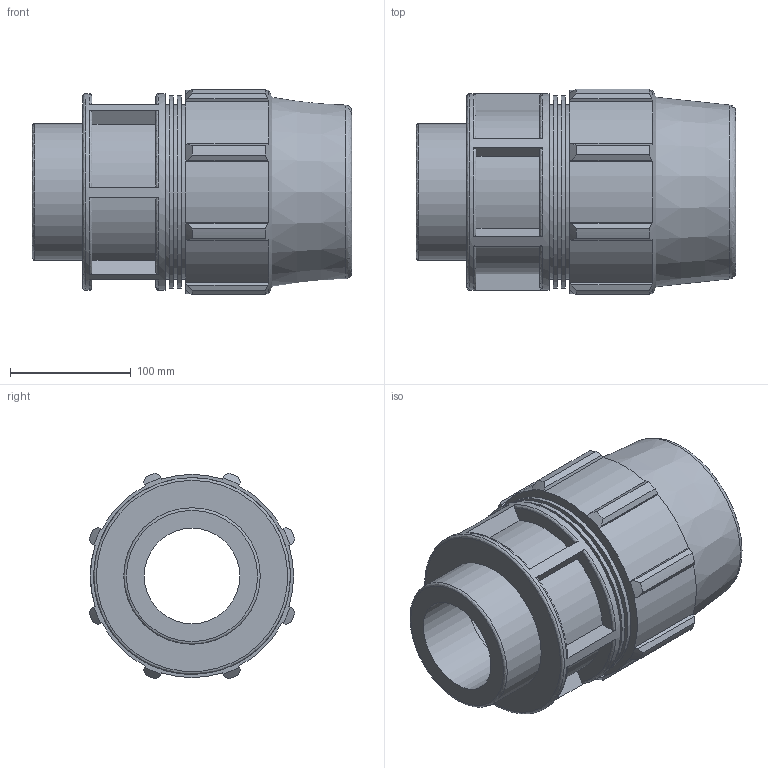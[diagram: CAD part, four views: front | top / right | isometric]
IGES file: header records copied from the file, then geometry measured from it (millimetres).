
Global section: file name: 0702061100400A.ipt; native system: Autodesk Inventor 2015; preprocessor: unknown; author: KIM; date: 20180325.201129; units: millimetre
Bounding box: 265 x 170.31 x 170.31 mm (x, y, z)
Volume: 2339122.6 mm3; surface area: 286857.7 mm2
Topology: 1 solids, 1 shells, 125 faces, 333 edges, 224 vertices
Faces by surface type: plane 67, cylinder 29, revolution 19, cone 10
Full cylindrical faces by diameter (mm): 113.03 x1, 144.8 x3, 159.642 x2, 162.9 x1
